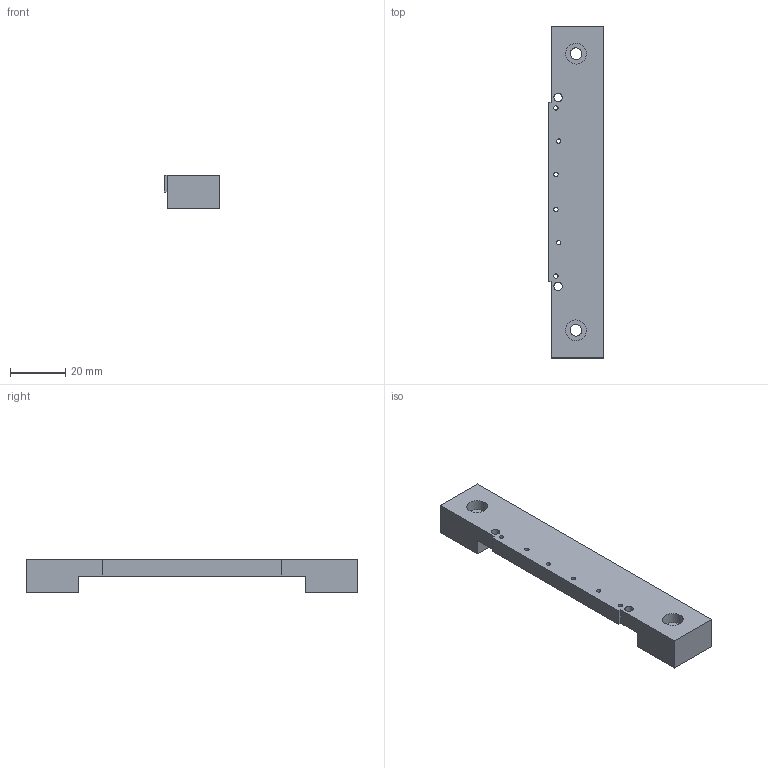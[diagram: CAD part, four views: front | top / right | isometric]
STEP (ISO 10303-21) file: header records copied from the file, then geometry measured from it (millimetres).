
FILE_DESCRIPTION(('CATIA V5 STEP Exchange'),'2;1');
FILE_NAME('D:\CATIA\ATLAS\Atlas_Maarten\atlas_upgrade_maarten\Ass.Module\STP\Presseur_Hybride.stp','2010-09-02T14:40:37+00:00',('none'),('none'),'CATIA Version 5 Release 18 SP 4 (IN-10)','CATIA V5 STEP AP203','none');
FILE_SCHEMA(('CONFIG_CONTROL_DESIGN'));
Length unit declared in the file: millimetre
Products named in the file (1): Presseur_Hybride
Bounding box: 20 x 120 x 12 mm (x, y, z)
Volume: 17671.2 mm3; surface area: 7864.6 mm2
Topology: 1 solids, 1 shells, 40 faces, 108 edges, 72 vertices
Faces by surface type: cylinder 24, plane 16
Entity records: 1239 total; most frequent: ORIENTED_EDGE 216, CARTESIAN_POINT 206, DIRECTION 158, EDGE_CURVE 108, AXIS2_PLACEMENT_3D 74, VERTEX_POINT 72, EDGE_LOOP 62, VECTOR 60
